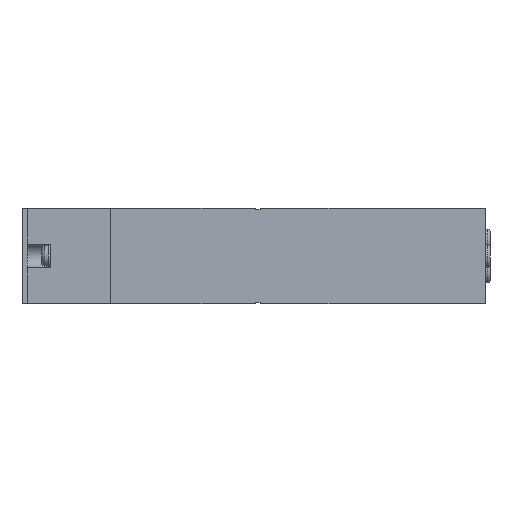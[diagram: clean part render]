
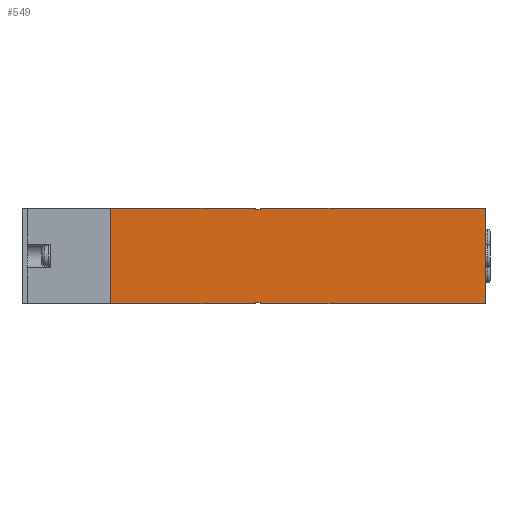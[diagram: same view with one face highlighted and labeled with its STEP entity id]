
A CAD part, front view. The second image highlights one B-rep face of the part: STEP entity #549.
In plain terms, the highlighted planar face has unit normal (0, -1, 0).
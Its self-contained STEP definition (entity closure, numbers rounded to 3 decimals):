
#549=ADVANCED_FACE('',(#1554),#1555,.F.);
#1554=FACE_OUTER_BOUND('',#3254,.T.);
#1555=PLANE('',#3255);
#3254=EDGE_LOOP('',(#6359,#6360,#6361,#6362,#6363,#6364,#6365,#6366,#6367,#6368,#6369,#6370,#6371,#6372,#6373,#6374,#6375,#6376,#6377,#6378,#6379,#6380,#6381,#6382));
#3255=AXIS2_PLACEMENT_3D('',#6383,#6384,#6385);
#6359=ORIENTED_EDGE('',*,*,#11248,.F.);
#6360=ORIENTED_EDGE('',*,*,#11249,.T.);
#6361=ORIENTED_EDGE('',*,*,#11231,.T.);
#6362=ORIENTED_EDGE('',*,*,#11250,.F.);
#6363=ORIENTED_EDGE('',*,*,#11251,.F.);
#6364=ORIENTED_EDGE('',*,*,#11252,.T.);
#6365=ORIENTED_EDGE('',*,*,#11253,.F.);
#6366=ORIENTED_EDGE('',*,*,#11254,.T.);
#6367=ORIENTED_EDGE('',*,*,#11255,.F.);
#6368=ORIENTED_EDGE('',*,*,#11256,.T.);
#6369=ORIENTED_EDGE('',*,*,#11257,.T.);
#6370=ORIENTED_EDGE('',*,*,#11258,.T.);
#6371=ORIENTED_EDGE('',*,*,#11259,.T.);
#6372=ORIENTED_EDGE('',*,*,#11260,.F.);
#6373=ORIENTED_EDGE('',*,*,#11261,.T.);
#6374=ORIENTED_EDGE('',*,*,#11262,.F.);
#6375=ORIENTED_EDGE('',*,*,#11222,.T.);
#6376=ORIENTED_EDGE('',*,*,#11263,.T.);
#6377=ORIENTED_EDGE('',*,*,#11223,.T.);
#6378=ORIENTED_EDGE('',*,*,#11264,.T.);
#6379=ORIENTED_EDGE('',*,*,#11265,.T.);
#6380=ORIENTED_EDGE('',*,*,#11266,.F.);
#6381=ORIENTED_EDGE('',*,*,#11267,.F.);
#6382=ORIENTED_EDGE('',*,*,#11268,.F.);
#6383=CARTESIAN_POINT('',(18.6,0.0,10.0));
#6384=DIRECTION('',(-0.0,1.0,0.0));
#6385=DIRECTION('',(1.0,0.0,0.0));
#11222=EDGE_CURVE('',#13690,#13695,#13697,.T.);
#11223=EDGE_CURVE('',#13698,#13699,#13700,.T.);
#11231=EDGE_CURVE('',#13709,#13713,#13715,.T.);
#11248=EDGE_CURVE('',#13747,#13748,#13749,.T.);
#11249=EDGE_CURVE('',#13747,#13709,#13750,.T.);
#11250=EDGE_CURVE('',#13751,#13713,#13752,.T.);
#11251=EDGE_CURVE('',#13753,#13751,#13754,.T.);
#11252=EDGE_CURVE('',#13753,#13755,#13756,.T.);
#11253=EDGE_CURVE('',#13757,#13755,#13758,.T.);
#11254=EDGE_CURVE('',#13757,#13759,#13760,.T.);
#11255=EDGE_CURVE('',#13761,#13759,#13762,.T.);
#11256=EDGE_CURVE('',#13761,#13763,#13764,.T.);
#11257=EDGE_CURVE('',#13763,#13765,#13766,.T.);
#11258=EDGE_CURVE('',#13765,#13767,#13768,.T.);
#11259=EDGE_CURVE('',#13767,#13769,#13770,.T.);
#11260=EDGE_CURVE('',#13771,#13769,#13772,.T.);
#11261=EDGE_CURVE('',#13771,#13773,#13774,.T.);
#11262=EDGE_CURVE('',#13690,#13773,#13775,.T.);
#11263=EDGE_CURVE('',#13695,#13698,#13776,.T.);
#11264=EDGE_CURVE('',#13699,#13777,#13778,.T.);
#11265=EDGE_CURVE('',#13777,#13779,#13780,.T.);
#11266=EDGE_CURVE('',#13781,#13779,#13782,.T.);
#11267=EDGE_CURVE('',#13783,#13781,#13784,.T.);
#11268=EDGE_CURVE('',#13748,#13783,#13785,.T.);
#13690=VERTEX_POINT('',#17499);
#13695=VERTEX_POINT('',#17506);
#13697=LINE('',#17509,#17510);
#13698=VERTEX_POINT('',#17511);
#13699=VERTEX_POINT('',#17512);
#13700=LINE('',#17513,#17514);
#13709=VERTEX_POINT('',#17527);
#13713=VERTEX_POINT('',#17533);
#13715=LINE('',#17536,#17537);
#13747=VERTEX_POINT('',#17609);
#13748=VERTEX_POINT('',#17610);
#13749=LINE('',#17611,#17612);
#13750=LINE('',#17613,#17614);
#13751=VERTEX_POINT('',#17615);
#13752=LINE('',#17616,#17617);
#13753=VERTEX_POINT('',#17618);
#13754=LINE('',#17619,#17620);
#13755=VERTEX_POINT('',#17621);
#13756=LINE('',#17622,#17623);
#13757=VERTEX_POINT('',#17624);
#13758=LINE('',#17625,#17626);
#13759=VERTEX_POINT('',#17627);
#13760=LINE('',#17628,#17629);
#13761=VERTEX_POINT('',#17630);
#13762=LINE('',#17631,#17632);
#13763=VERTEX_POINT('',#17633);
#13764=LINE('',#17634,#17635);
#13765=VERTEX_POINT('',#17636);
#13766=LINE('',#17637,#17638);
#13767=VERTEX_POINT('',#17639);
#13768=LINE('',#17640,#17641);
#13769=VERTEX_POINT('',#17642);
#13770=LINE('',#17643,#17644);
#13771=VERTEX_POINT('',#17645);
#13772=LINE('',#17646,#17647);
#13773=VERTEX_POINT('',#17648);
#13774=LINE('',#17649,#17650);
#13775=LINE('',#17651,#17652);
#13776=LINE('',#17653,#17654);
#13777=VERTEX_POINT('',#17655);
#13778=LINE('',#17656,#17657);
#13779=VERTEX_POINT('',#17658);
#13780=LINE('',#17659,#17660);
#13781=VERTEX_POINT('',#17661);
#13782=LINE('',#17662,#17663);
#13783=VERTEX_POINT('',#17664);
#13784=LINE('',#17665,#17666);
#13785=LINE('',#17667,#17668);
#17499=CARTESIAN_POINT('',(49.1,0.0,-9.8));
#17506=CARTESIAN_POINT('',(50.1,0.0,-9.8));
#17509=CARTESIAN_POINT('',(18.6,0.0,-9.8));
#17510=VECTOR('',#21750,1.0);
#17511=CARTESIAN_POINT('',(50.1,0.0,-9.9));
#17512=CARTESIAN_POINT('',(55.1,0.0,-9.9));
#17513=CARTESIAN_POINT('',(44.1,0.0,-9.9));
#17514=VECTOR('',#21751,1.0);
#17527=CARTESIAN_POINT('',(50.1,0.0,9.8));
#17533=CARTESIAN_POINT('',(49.1,0.0,9.8));
#17536=CARTESIAN_POINT('',(18.6,0.0,9.8));
#17537=VECTOR('',#21759,1.0);
#17609=CARTESIAN_POINT('',(50.1,0.0,9.9));
#17610=CARTESIAN_POINT('',(55.1,0.0,9.9));
#17611=CARTESIAN_POINT('',(44.1,0.0,9.9));
#17612=VECTOR('',#21779,1.0);
#17613=CARTESIAN_POINT('',(50.1,0.0,10.0));
#17614=VECTOR('',#21780,1.0);
#17615=CARTESIAN_POINT('',(49.1,0.0,9.9));
#17616=CARTESIAN_POINT('',(49.1,0.0,10.0));
#17617=VECTOR('',#21781,1.0);
#17618=CARTESIAN_POINT('',(44.1,0.0,9.9));
#17619=CARTESIAN_POINT('',(44.1,0.0,9.9));
#17620=VECTOR('',#21782,1.0);
#17621=CARTESIAN_POINT('',(44.1,0.0,10.0));
#17622=CARTESIAN_POINT('',(44.1,0.0,9.9));
#17623=VECTOR('',#21783,1.0);
#17624=CARTESIAN_POINT('',(35.1,0.0,10.0));
#17625=CARTESIAN_POINT('',(18.6,0.0,10.0));
#17626=VECTOR('',#21784,1.0);
#17627=CARTESIAN_POINT('',(35.1,0.0,9.9));
#17628=CARTESIAN_POINT('',(35.1,0.0,10.1));
#17629=VECTOR('',#21785,1.0);
#17630=CARTESIAN_POINT('',(18.6,0.0,9.9));
#17631=CARTESIAN_POINT('',(18.6,0.0,9.9));
#17632=VECTOR('',#21786,1.0);
#17633=CARTESIAN_POINT('',(18.6,0.0,-9.9));
#17634=CARTESIAN_POINT('',(18.6,0.0,10.0));
#17635=VECTOR('',#21787,1.0);
#17636=CARTESIAN_POINT('',(35.1,0.0,-9.9));
#17637=CARTESIAN_POINT('',(18.6,0.0,-9.9));
#17638=VECTOR('',#21788,1.0);
#17639=CARTESIAN_POINT('',(35.1,0.0,-10.0));
#17640=CARTESIAN_POINT('',(35.1,0.0,-9.9));
#17641=VECTOR('',#21789,1.0);
#17642=CARTESIAN_POINT('',(44.1,0.0,-10.0));
#17643=CARTESIAN_POINT('',(18.6,0.0,-10.0));
#17644=VECTOR('',#21790,1.0);
#17645=CARTESIAN_POINT('',(44.1,0.0,-9.9));
#17646=CARTESIAN_POINT('',(44.1,0.0,-9.9));
#17647=VECTOR('',#21791,1.0);
#17648=CARTESIAN_POINT('',(49.1,0.0,-9.9));
#17649=CARTESIAN_POINT('',(44.1,0.0,-9.9));
#17650=VECTOR('',#21792,1.0);
#17651=CARTESIAN_POINT('',(49.1,0.0,10.0));
#17652=VECTOR('',#21793,1.0);
#17653=CARTESIAN_POINT('',(50.1,0.0,10.0));
#17654=VECTOR('',#21794,1.0);
#17655=CARTESIAN_POINT('',(55.1,0.0,-10.0));
#17656=CARTESIAN_POINT('',(55.1,0.0,-9.9));
#17657=VECTOR('',#21795,1.0);
#17658=CARTESIAN_POINT('',(97.6,0.0,-10.0));
#17659=CARTESIAN_POINT('',(18.6,0.0,-10.0));
#17660=VECTOR('',#21796,1.0);
#17661=CARTESIAN_POINT('',(97.6,0.0,10.0));
#17662=CARTESIAN_POINT('',(97.6,0.0,10.0));
#17663=VECTOR('',#21797,1.0);
#17664=CARTESIAN_POINT('',(55.1,0.0,10.0));
#17665=CARTESIAN_POINT('',(18.6,0.0,10.0));
#17666=VECTOR('',#21798,1.0);
#17667=CARTESIAN_POINT('',(55.1,0.0,9.9));
#17668=VECTOR('',#21799,1.0);
#21750=DIRECTION('',(1.0,0.0,0.0));
#21751=DIRECTION('',(1.0,0.0,0.0));
#21759=DIRECTION('',(-1.0,0.0,0.0));
#21779=DIRECTION('',(1.0,0.0,0.0));
#21780=DIRECTION('',(0.0,0.0,-1.0));
#21781=DIRECTION('',(0.0,0.0,-1.0));
#21782=DIRECTION('',(1.0,0.0,0.0));
#21783=DIRECTION('',(0.0,0.0,1.0));
#21784=DIRECTION('',(1.0,0.0,0.0));
#21785=DIRECTION('',(0.0,0.0,-1.0));
#21786=DIRECTION('',(1.0,0.0,0.0));
#21787=DIRECTION('',(0.0,0.0,-1.0));
#21788=DIRECTION('',(1.0,0.0,0.0));
#21789=DIRECTION('',(0.0,0.0,-1.0));
#21790=DIRECTION('',(1.0,0.0,0.0));
#21791=DIRECTION('',(0.0,0.0,-1.0));
#21792=DIRECTION('',(1.0,0.0,0.0));
#21793=DIRECTION('',(0.0,0.0,-1.0));
#21794=DIRECTION('',(0.0,0.0,-1.0));
#21795=DIRECTION('',(0.0,0.0,-1.0));
#21796=DIRECTION('',(1.0,0.0,0.0));
#21797=DIRECTION('',(0.0,0.0,-1.0));
#21798=DIRECTION('',(1.0,0.0,0.0));
#21799=DIRECTION('',(0.0,0.0,1.0));
